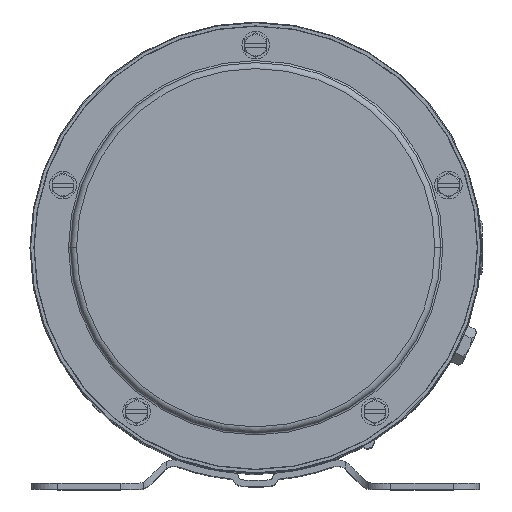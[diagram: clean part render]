
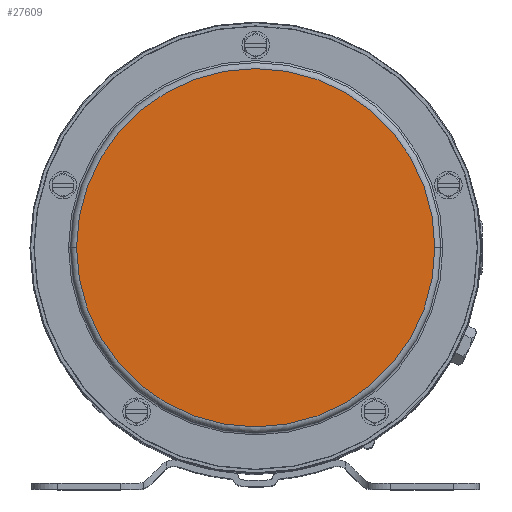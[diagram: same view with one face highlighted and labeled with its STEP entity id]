
A CAD part, top view. The second image highlights one B-rep face of the part: STEP entity #27609.
In plain terms, the highlighted planar face has unit normal (0, 0, 1).
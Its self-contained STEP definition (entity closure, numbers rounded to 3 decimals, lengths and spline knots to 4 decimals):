
#1997 = VERTEX_POINT ( 'NONE', #55987 ) ;
#5209 = EDGE_CURVE ( 'NONE', #1997, #41017, #48522, .T. ) ;
#11584 = DIRECTION ( 'NONE',  ( 0., 0., -1. ) ) ;
#12631 = DIRECTION ( 'NONE',  ( 0., 0., 1. ) ) ;
#13196 = DIRECTION ( 'NONE',  ( 1., 0., 0. ) ) ;
#16186 = DIRECTION ( 'NONE',  ( -1., 0., 0. ) ) ;
#17188 = CARTESIAN_POINT ( 'NONE',  ( 0., 0., 9.4284 ) ) ;
#20787 = PLANE ( 'NONE',  #49905 ) ;
#25669 = EDGE_CURVE ( 'NONE', #41017, #1997, #38633, .T. ) ;
#27609 = ADVANCED_FACE ( 'NONE', ( #53736 ), #20787, .F. ) ;
#30979 = DIRECTION ( 'NONE',  ( 1., 0., 0. ) ) ;
#31046 = AXIS2_PLACEMENT_3D ( 'NONE', #35377, #12631, #30979 ) ;
#35377 = CARTESIAN_POINT ( 'NONE',  ( 0., 0., 9.4284 ) ) ;
#38633 = CIRCLE ( 'NONE', #31046, 2.6 ) ;
#41017 = VERTEX_POINT ( 'NONE', #42980 ) ;
#42424 = EDGE_LOOP ( 'NONE', ( #51261, #57094 ) ) ;
#42980 = CARTESIAN_POINT ( 'NONE',  ( -2.6, 0., 9.4284 ) ) ;
#47575 = AXIS2_PLACEMENT_3D ( 'NONE', #17188, #58544, #13196 ) ;
#48522 = CIRCLE ( 'NONE', #47575, 2.6 ) ;
#49905 = AXIS2_PLACEMENT_3D ( 'NONE', #57362, #11584, #16186 ) ;
#51261 = ORIENTED_EDGE ( 'NONE', *, *, #5209, .T. ) ;
#53736 = FACE_OUTER_BOUND ( 'NONE', #42424, .T. ) ;
#55987 = CARTESIAN_POINT ( 'NONE',  ( 2.6, 0., 9.4284 ) ) ;
#57094 = ORIENTED_EDGE ( 'NONE', *, *, #25669, .T. ) ;
#57362 = CARTESIAN_POINT ( 'NONE',  ( 0., 2.6, 9.4284 ) ) ;
#58544 = DIRECTION ( 'NONE',  ( 0., 0., 1. ) ) ;
